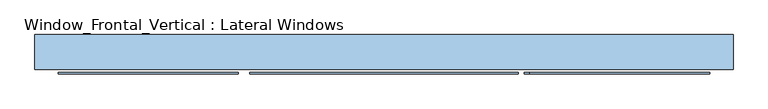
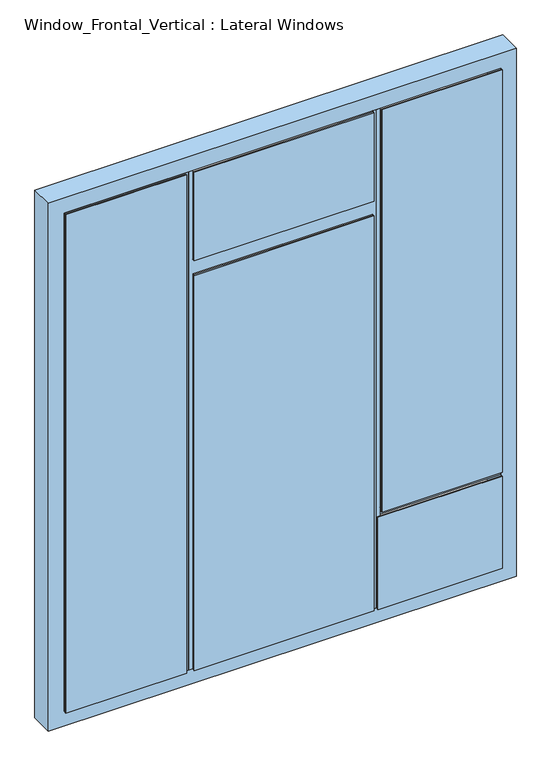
"""IFC4 building model written with IfcOpenShell, lengths in millimetres: window geometry, Window_Frontal_Vertical : Lateral Windows."""

from ifc_helpers import new_model, si_unit, frame, origin, place, context, project, spatial, polyline, outline, extrude, source, transform, mapped, element, save


def window_frontal_vertical_lateral_windows_1aae0640(model_context):
    return source(origin(), model_context, "Body", "SweptSolid", [
        extrude(outline(polyline([(914.4, 1524.0), (4546.6, 1524.0), (4546.6, -1524.0), (914.4, -1524.0), (914.4, 1524.0)]), holes=[polyline([(4445.0, 1422.4), (1016.0, 1422.4), (1016.0, -1422.4), (4445.0, -1422.4), (4445.0, 1422.4)])]), frame((0.0, -76.2, 0.0), z_axis=(0.0, 1.0, 0.0), x_axis=(0.0, 0.0, 1.0)), (0.0, 0.0, 1.0), 152.4),
        extrude(outline(polyline([(-636.1545455, -95.25), (-1422.4, -95.25), (-1422.4, -88.9), (-636.1545455, -88.9), (-636.1545455, -95.25)])), frame((0.0, 0.0, 1016.0), z_axis=(0.0, 0.0, 1.0), x_axis=(1.0, 0.0, 0.0)), (0.0, 0.0, 1.0), 3429.0),
        extrude(outline(polyline([(585.3545455, -95.25), (-585.3545455, -95.25), (-585.3545455, -88.9), (585.3545455, -88.9), (585.3545455, -95.25)])), frame((0.0, 0.0, 1016.0), z_axis=(0.0, 0.0, 1.0), x_axis=(1.0, 0.0, 0.0)), (0.0, 0.0, 1.0), 2717.8),
        extrude(outline(polyline([(4445.0, 585.3545455), (3835.4, 585.3545455), (3835.4, -585.3545455), (4445.0, -585.3545455), (4445.0, -610.7545455), (1016.0, -610.7545455), (1016.0, -585.3545455), (3733.8, -585.3545455), (3733.8, 585.3545455), (1016.0, 585.3545455), (1016.0, 610.7545455), (4445.0, 610.7545455), (4445.0, 585.3545455)])), frame((0.0, -76.2, 0.0), z_axis=(0.0, 1.0, 0.0), x_axis=(0.0, 0.0, 1.0)), (0.0, 0.0, 1.0), 152.4),
        extrude(outline(polyline([(-610.7545455, 76.2), (-610.7545455, -76.2), (-636.1545455, -76.2), (-636.1545455, 76.2), (-610.7545455, 76.2)])), frame((0.0, 0.0, 1016.0), z_axis=(0.0, 0.0, 1.0), x_axis=(1.0, 0.0, 0.0)), (0.0, 0.0, 1.0), 3429.0),
        extrude(outline(polyline([(636.1545455, 76.2), (636.1545455, -76.2), (610.7545455, -76.2), (610.7545455, 76.2), (636.1545455, 76.2)])), frame((0.0, 0.0, 1016.0), z_axis=(0.0, 0.0, 1.0), x_axis=(1.0, 0.0, 0.0)), (0.0, 0.0, 1.0), 3429.0),
        extrude(outline(polyline([(585.3545455, -95.25), (-585.3545455, -95.25), (-585.3545455, -88.9), (585.3545455, -88.9), (585.3545455, -95.25)])), frame((0.0, 0.0, 3835.4), z_axis=(0.0, 0.0, 1.0), x_axis=(1.0, 0.0, 0.0)), (0.0, 0.0, 1.0), 609.6),
        extrude(outline(polyline([(1422.4, 76.2), (1422.4, -76.2), (636.1545455, -76.2), (636.1545455, 76.2), (1422.4, 76.2)])), frame((0.0, 0.0, 1676.4), z_axis=(0.0, 0.0, 1.0), x_axis=(1.0, 0.0, 0.0)), (0.0, 0.0, 1.0), 25.4),
        extrude(outline(polyline([(-636.1545455, 76.2), (-636.1545455, -76.2), (-1422.4, -76.2), (-1422.4, 76.2), (-636.1545455, 76.2)])), frame((0.0, 0.0, 3733.8), z_axis=(0.0, 0.0, 1.0), x_axis=(1.0, 0.0, 0.0)), (0.0, 0.0, 1.0), 101.6),
        extrude(outline(polyline([(1422.4, 76.2), (1422.4, -76.2), (636.1545455, -76.2), (636.1545455, 76.2), (1422.4, 76.2)])), frame((0.0, 0.0, 1651.0), z_axis=(0.0, 0.0, 1.0), x_axis=(1.0, 0.0, 0.0)), (0.0, 0.0, 1.0), 25.4),
        extrude(outline(polyline([(4445.0, -1422.4), (3835.4, -1422.4), (3835.4, -636.1545455), (4445.0, -636.1545455), (4445.0, -1422.4)]), holes=[polyline([(3886.2, -686.9545455), (3886.2, -1371.6), (4394.2, -1371.6), (4394.2, -686.9545455), (3886.2, -686.9545455)])]), frame((0.0, -76.2, 0.0), z_axis=(0.0, 1.0, 0.0), x_axis=(0.0, 0.0, 1.0)), (0.0, 0.0, 1.0), 152.4),
        extrude(outline(polyline([(1422.4, -95.25), (636.1545455, -95.25), (636.1545455, -88.9), (1422.4, -88.9), (1422.4, -95.25)])), frame((0.0, 0.0, 1676.4), z_axis=(0.0, 0.0, 1.0), x_axis=(1.0, 0.0, 0.0)), (0.0, 0.0, 1.0), 2768.6),
        extrude(outline(polyline([(1422.4, -95.25), (611.9090909, -95.25), (611.9090909, -88.9), (1422.4, -88.9), (1422.4, -95.25)])), frame((0.0, 0.0, 1016.0), z_axis=(0.0, 0.0, 1.0), x_axis=(1.0, 0.0, 0.0)), (0.0, 0.0, 1.0), 635.0),
    ])


if __name__ == "__main__":
    model = new_model("IFC4")
    model_context = context("Model", 3, world=origin())
    ifc_project = project(units=[si_unit("LENGTHUNIT", "METRE", prefix="MILLI")], contexts=[model_context])
    site = spatial("IfcSite", under=ifc_project)
    building = spatial("IfcBuilding", under=site)
    placement = place(None, origin())
    window_frontal_vertical_lateral_windows_shape = window_frontal_vertical_lateral_windows_1aae0640(model_context)
    element("IfcWindow", 1, ObjectType="Window_Frontal_Vertical : Lateral Windows", at=placement, inside=building, context=model_context, shape_type="MappedRepresentation", body=[
        mapped(window_frontal_vertical_lateral_windows_shape, transform((0.0, 0.0, 0.0), x_axis=(1.0, 0.0, 0.0), y_axis=(0.0, 1.0, 0.0), z_axis=(0.0, 0.0, 1.0))),
    ])
    save(model, "model.ifc")
